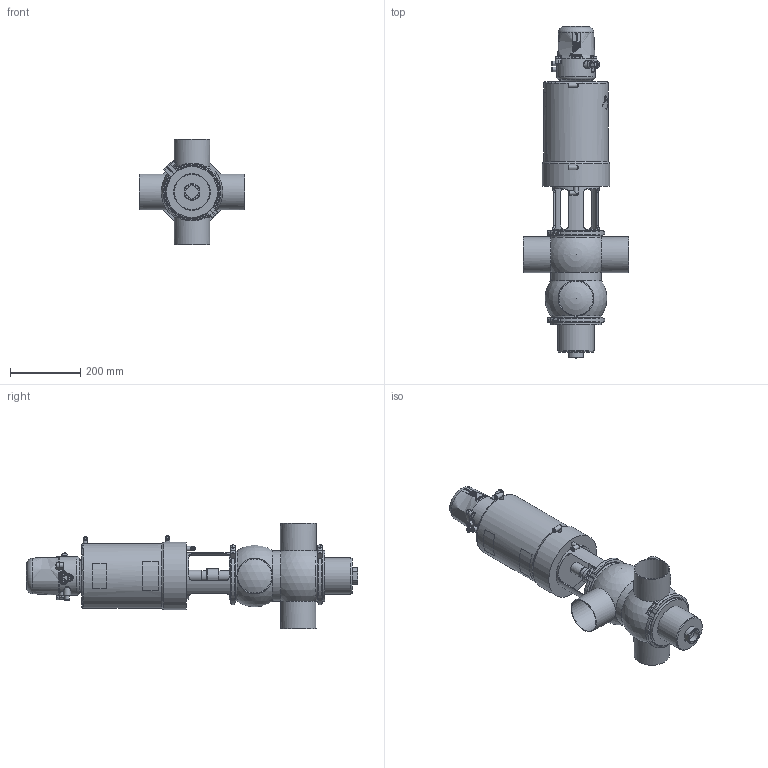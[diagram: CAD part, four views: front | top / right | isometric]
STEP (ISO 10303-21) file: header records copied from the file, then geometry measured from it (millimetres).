
FILE_DESCRIPTION (( 'STEP AP214' ), '1' );
FILE_NAME ('INNOVA P CB-90 W OD 4 & C-TOP S_10.250.16.0015.STEP', '2024-08-09T11:48:09', ( '' ), ( '' ), 'SwSTEP 2.0', 'SolidWorks 2023', '' );
FILE_SCHEMA (( 'AUTOMOTIVE_DESIGN' ));
Length unit declared in the file: millimetre
Products named in the file (7): INNOVA P CB-90 W OD 4 & C-TOP S_10.250.16.0015; 10.250.15.0001_OD 4"; 10.250.15.0003_DN 4"; 10.426.15.0001_C-TOP S - 3 EV; 10.250.15.0002_Type P T3; 10.251.15.0007_OD 4"; 10.240.15.0001_DN 100
Assembly tree (7 placements, depth 2):
  INNOVA P CB-90 W OD 4 & C-TOP S_10.250.16.0015
    10.250.15.0001_OD 4"
    10.250.15.0002_Type P T3
    10.426.15.0001_C-TOP S - 3 EV
    10.251.15.0007_OD 4"
    10.240.15.0001_DN 100  x2
    10.250.15.0003_DN 4"
Bounding box: 300 x 945.6 x 300 mm (x, y, z)
Volume: 16357803.4 mm3; surface area: 928049.2 mm2
Topology: 7 solids, 7 shells, 1212 faces, 2930 edges, 1948 vertices
Faces by surface type: plane 414, cylinder 387, cone 204, bspline 162, torus 33, sphere 12
Full cylindrical faces by diameter (mm): 0.371 x17, 0.512 x16, 0.658 x16, 0.795 x16, 0.94 x15, 1.098 x15, 1.241 x13, 1.382 x13, 1.523 x11, 1.669 x10, 2.201 x1, 4.2 x2, 5 x1, 5.5 x2, 6 x4, 6.15 x3, 8 x5, 10 x1, 10.5 x3, 11 x4, 12.5 x9, 13 x6, 13.5 x2, 17 x3, 20 x2, 22 x2, 30.5 x2, 32 x1, 35 x1, 41 x1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
Entity records: 60350 total; most frequent: CARTESIAN_POINT 28717, ORIENTED_EDGE 4644, DIRECTION 3797, EDGE_CURVE 2322, VERTEX_POINT 1656, EDGE_LOOP 1636, AXIS2_PLACEMENT_3D 1568, FACE_OUTER_BOUND 1383
